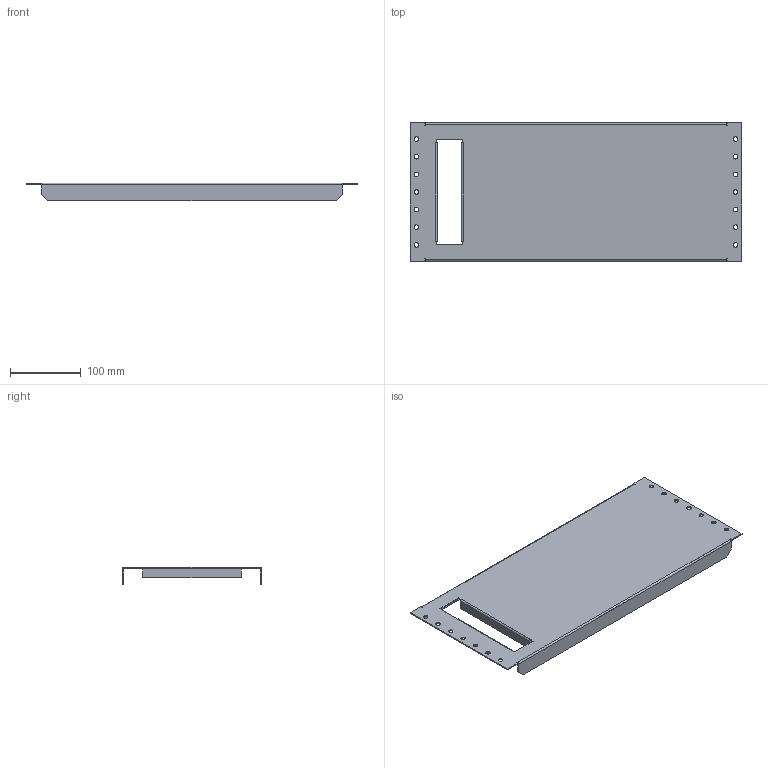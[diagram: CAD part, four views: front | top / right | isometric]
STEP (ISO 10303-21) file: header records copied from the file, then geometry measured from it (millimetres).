
FILE_DESCRIPTION (( 'STEP AP214' ), '1' );
FILE_NAME ('MSMPN2006V.STEP', '2016-08-16T11:34:41', ( '' ), ( '' ), 'SwSTEP 2.0', 'SolidWorks 2014', '' );
FILE_SCHEMA (( 'AUTOMOTIVE_DESIGN' ));
Length unit declared in the file: millimetre
Products named in the file (1): MSMPN2006V
Bounding box: 470 x 196 x 25 mm (x, y, z)
Volume: 164209.4 mm3; surface area: 222160.8 mm2
Topology: 1 solids, 1 shells, 84 faces, 232 edges, 150 vertices
Faces by surface type: plane 62, cylinder 22
Full cylindrical faces by diameter (mm): 6.5 x14
Entity records: 2550 total; most frequent: CARTESIAN_POINT 425, DIRECTION 422, ORIENTED_EDGE 408, EDGE_CURVE 204, LINE 156, VECTOR 156, VERTEX_POINT 136, AXIS2_PLACEMENT_3D 133
